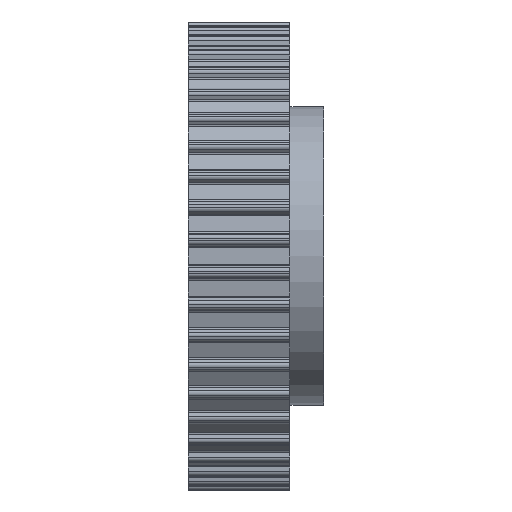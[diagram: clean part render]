
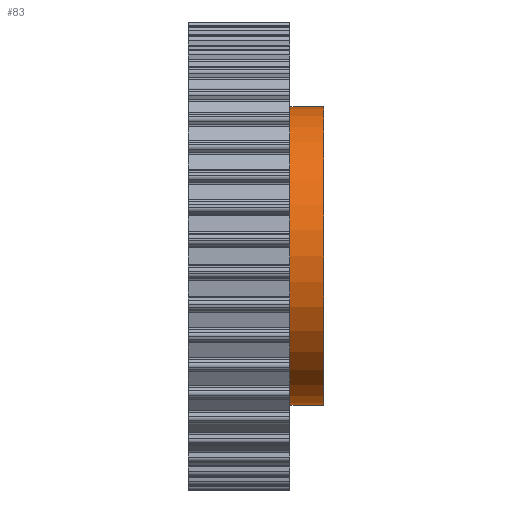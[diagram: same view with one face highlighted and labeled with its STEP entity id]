
A CAD part, front view. The second image highlights one B-rep face of the part: STEP entity #83.
In plain terms, the highlighted cylindrical face has radius 44 mm (diameter 88 mm), a full revolution.
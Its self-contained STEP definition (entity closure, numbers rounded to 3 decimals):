
#83 = ADVANCED_FACE( '', ( #453, #454 ), #455, .T. );
#453 = FACE_OUTER_BOUND( '', #1172, .T. );
#454 = FACE_OUTER_BOUND( '', #1173, .T. );
#455 = CYLINDRICAL_SURFACE( '', #1174, 44. );
#1172 = EDGE_LOOP( '', ( #2621 ) );
#1173 = EDGE_LOOP( '', ( #2622 ) );
#1174 = AXIS2_PLACEMENT_3D( '', #2623, #2624, #2625 );
#2621 = ORIENTED_EDGE( '', *, *, #5772, .T. );
#2622 = ORIENTED_EDGE( '', *, *, #5774, .F. );
#2623 = CARTESIAN_POINT( '', ( 40., 0., 0. ) );
#2624 = DIRECTION( '', ( -1., 0., 0. ) );
#2625 = DIRECTION( '', ( 0., 0., -1. ) );
#5772 = EDGE_CURVE( '', #7537, #7537, #7538, .T. );
#5774 = EDGE_CURVE( '', #7541, #7541, #7542, .T. );
#7537 = VERTEX_POINT( '', #9574 );
#7538 = CIRCLE( '', #9575, 44. );
#7541 = VERTEX_POINT( '', #9578 );
#7542 = CIRCLE( '', #9579, 44. );
#9574 = CARTESIAN_POINT( '', ( 30., 0., -44. ) );
#9575 = AXIS2_PLACEMENT_3D( '', #11866, #11867, #11868 );
#9578 = CARTESIAN_POINT( '', ( 40., 0., -44. ) );
#9579 = AXIS2_PLACEMENT_3D( '', #11872, #11873, #11874 );
#11866 = CARTESIAN_POINT( '', ( 30., 0., 0. ) );
#11867 = DIRECTION( '', ( 1., 0., 0. ) );
#11868 = DIRECTION( '', ( 0., 0., -1. ) );
#11872 = CARTESIAN_POINT( '', ( 40., 0., 0. ) );
#11873 = DIRECTION( '', ( 1., 0., 0. ) );
#11874 = DIRECTION( '', ( 0., 0., -1. ) );
